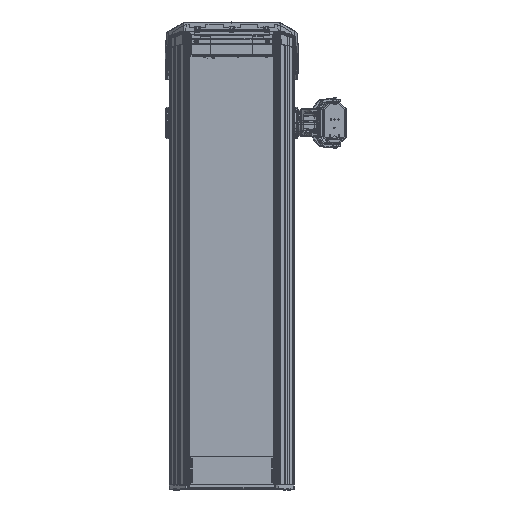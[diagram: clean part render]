
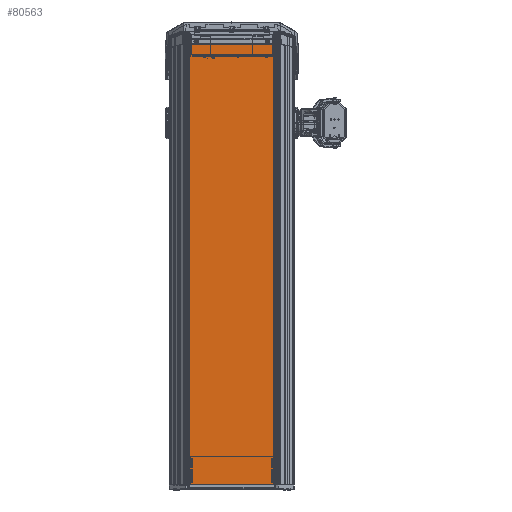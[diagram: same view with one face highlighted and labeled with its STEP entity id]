
A CAD part, front view. The second image highlights one B-rep face of the part: STEP entity #80563.
In plain terms, the highlighted planar face has unit normal (0, -1, 0) as drawn and (0, 1, 0) by its records, which use the part's own axes.
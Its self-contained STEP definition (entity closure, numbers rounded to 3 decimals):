
#6195=CIRCLE('',#89767,5.25);
#6196=CIRCLE('',#89768,5.25);
#16223=ORIENTED_EDGE('',*,*,#36511,.T.);
#16224=ORIENTED_EDGE('',*,*,#36512,.T.);
#16225=ORIENTED_EDGE('',*,*,#36505,.F.);
#16226=ORIENTED_EDGE('',*,*,#36513,.T.);
#16227=ORIENTED_EDGE('',*,*,#36500,.F.);
#16228=ORIENTED_EDGE('',*,*,#36497,.F.);
#16229=ORIENTED_EDGE('',*,*,#36495,.F.);
#16230=ORIENTED_EDGE('',*,*,#36514,.T.);
#36495=EDGE_CURVE('',#47153,#47154,#54247,.T.);
#36497=EDGE_CURVE('',#47154,#47155,#54249,.T.);
#36500=EDGE_CURVE('',#47155,#47157,#54252,.T.);
#36505=EDGE_CURVE('',#47161,#47162,#54257,.T.);
#36511=EDGE_CURVE('',#47165,#47165,#6195,.T.);
#36512=EDGE_CURVE('',#47166,#47166,#6196,.T.);
#36513=EDGE_CURVE('',#47161,#47157,#54261,.F.);
#36514=EDGE_CURVE('',#47153,#47162,#54262,.F.);
#47153=VERTEX_POINT('',#173331);
#47154=VERTEX_POINT('',#173333);
#47155=VERTEX_POINT('',#173337);
#47157=VERTEX_POINT('',#173343);
#47161=VERTEX_POINT('',#173352);
#47162=VERTEX_POINT('',#173354);
#47165=VERTEX_POINT('',#173365);
#47166=VERTEX_POINT('',#173367);
#54247=LINE('',#173332,#61183);
#54249=LINE('',#173336,#61185);
#54252=LINE('',#173342,#61188);
#54257=LINE('',#173353,#61193);
#54261=LINE('',#173368,#61197);
#54262=LINE('',#173369,#61198);
#61183=VECTOR('',#101378,1000.);
#61185=VECTOR('',#101382,1000.);
#61188=VECTOR('',#101387,1000.);
#61193=VECTOR('',#101394,1000.);
#61197=VECTOR('',#101410,1000.);
#61198=VECTOR('',#101411,1000.);
#68060=EDGE_LOOP('',(#16223));
#68061=EDGE_LOOP('',(#16224));
#68062=EDGE_LOOP('',(#16225,#16226,#16227,#16228,#16229,#16230));
#73290=FACE_BOUND('',#68060,.T.);
#73291=FACE_BOUND('',#68061,.T.);
#73292=FACE_BOUND('',#68062,.T.);
#77397=PLANE('',#89766);
#80563=ADVANCED_FACE('',(#73290,#73291,#73292),#77397,.F.);
#89766=AXIS2_PLACEMENT_3D('',#173363,#101404,#101405);
#89767=AXIS2_PLACEMENT_3D('',#173364,#101406,#101407);
#89768=AXIS2_PLACEMENT_3D('',#173366,#101408,#101409);
#101378=DIRECTION('',(0.,0.,-1.));
#101382=DIRECTION('',(1.,0.,0.));
#101387=DIRECTION('',(0.,0.,1.));
#101394=DIRECTION('',(-1.,0.,0.));
#101404=DIRECTION('',(0.,-1.,0.));
#101405=DIRECTION('',(0.,0.,-1.));
#101406=DIRECTION('',(0.,-1.,0.));
#101407=DIRECTION('',(0.,0.,-1.));
#101408=DIRECTION('',(0.,-1.,0.));
#101409=DIRECTION('',(0.,0.,-1.));
#101410=DIRECTION('',(-0.707,0.,0.707));
#101411=DIRECTION('',(-0.707,0.,-0.707));
#173331=CARTESIAN_POINT('',(-108.3,0.,1060.));
#173332=CARTESIAN_POINT('',(-108.3,0.,1062.));
#173333=CARTESIAN_POINT('',(-108.3,0.,0.));
#173336=CARTESIAN_POINT('',(-108.3,0.,0.));
#173337=CARTESIAN_POINT('',(108.3,0.,0.));
#173342=CARTESIAN_POINT('',(108.3,0.,0.));
#173343=CARTESIAN_POINT('',(108.3,0.,1060.));
#173352=CARTESIAN_POINT('',(106.3,0.,1062.));
#173353=CARTESIAN_POINT('',(108.3,0.,1062.));
#173354=CARTESIAN_POINT('',(-106.3,0.,1062.));
#173363=CARTESIAN_POINT('',(-108.3,0.,0.));
#173364=CARTESIAN_POINT('',(-85.,0.,7.));
#173365=CARTESIAN_POINT('',(-85.,0.,1.75));
#173366=CARTESIAN_POINT('',(85.,0.,7.));
#173367=CARTESIAN_POINT('',(85.,0.,1.75));
#173368=CARTESIAN_POINT('',(106.3,0.,1062.));
#173369=CARTESIAN_POINT('',(-108.3,0.,1060.));
